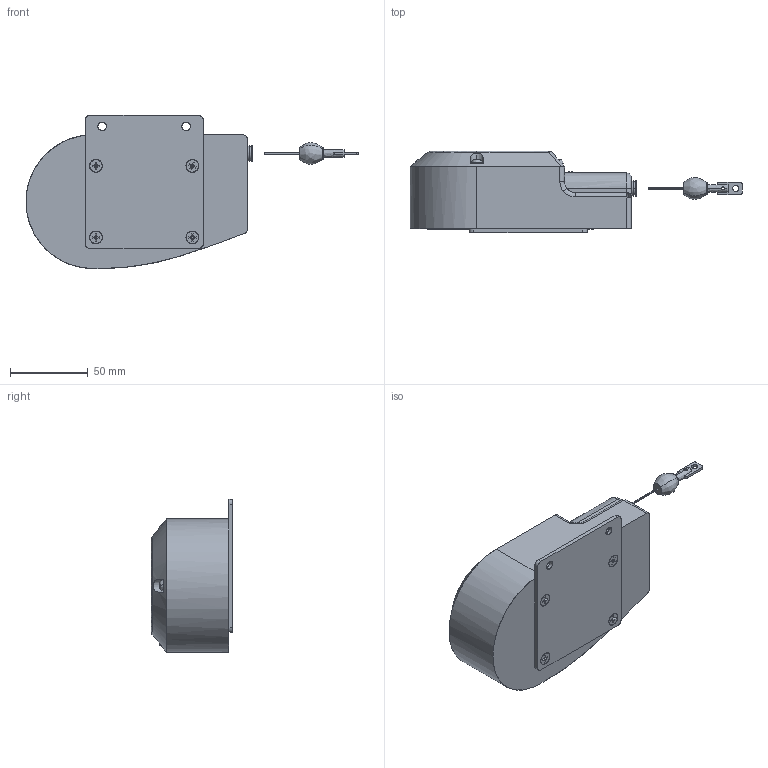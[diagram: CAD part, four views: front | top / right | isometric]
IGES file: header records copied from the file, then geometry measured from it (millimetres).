
Start section: SolidWorks IGES file using analytic representation for surfaces
Bounding box: 213.55 x 52.5 x 98.55 mm (x, y, z)
Surface area: 56496.8 mm2 (no closed solid volume)
Topology: 0 solids, 0 shells, 336 faces, 5068 edges, 5068 vertices
Faces by surface type: bspline 188, revolution 148
